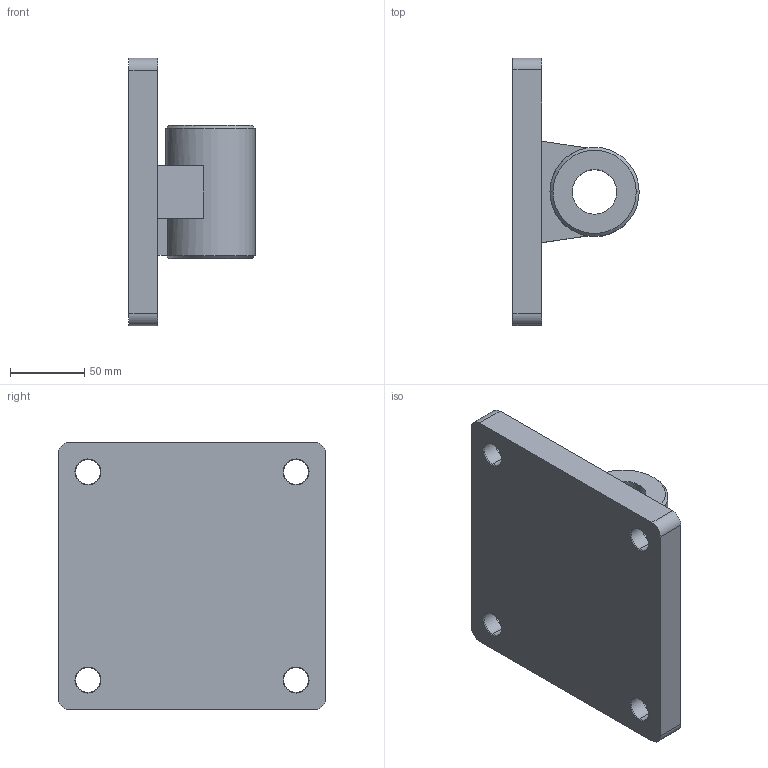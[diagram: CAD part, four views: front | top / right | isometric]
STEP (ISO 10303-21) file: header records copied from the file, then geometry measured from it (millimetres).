
FILE_DESCRIPTION (( 'STEP AP214' ), '1' );
FILE_NAME ('F-SI160CA.STEP', '2016-02-16T16:01:36', ( '' ), ( '' ), 'SwSTEP 2.0', 'SolidWorks 2016', '' );
FILE_SCHEMA (( 'AUTOMOTIVE_DESIGN' ));
Length unit declared in the file: millimetre
Products named in the file (1): F-SI160CA
Bounding box: 85 x 180 x 180 mm (x, y, z)
Volume: 826409.1 mm3; surface area: 108589.8 mm2
Topology: 1 solids, 1 shells, 72 faces, 167 edges, 102 vertices
Faces by surface type: cone 28, cylinder 24, plane 20
Entity records: 2103 total; most frequent: DIRECTION 395, CARTESIAN_POINT 342, ORIENTED_EDGE 334, EDGE_CURVE 167, AXIS2_PLACEMENT_3D 155, VERTEX_POINT 102, EDGE_LOOP 87, VECTOR 85
